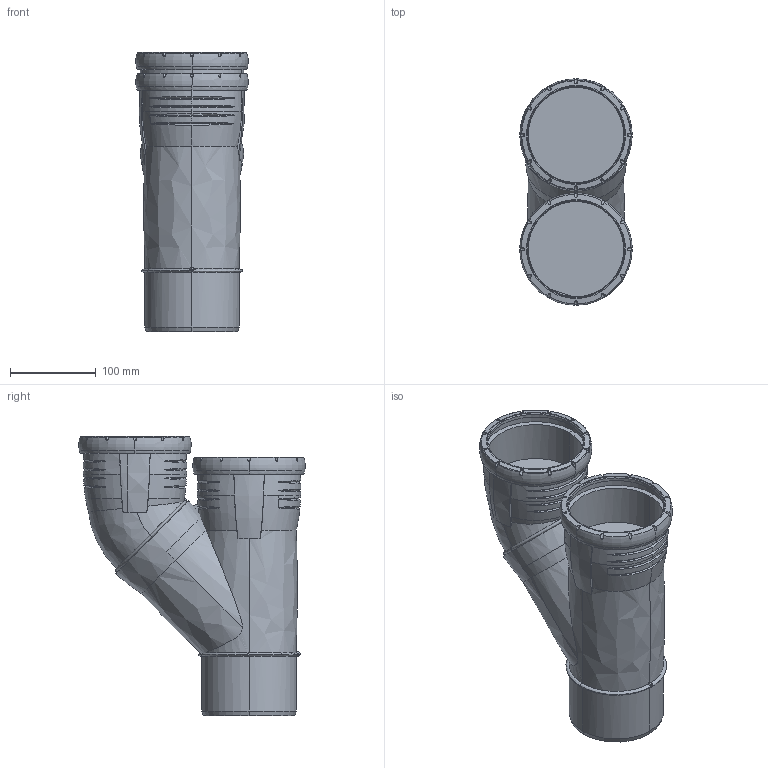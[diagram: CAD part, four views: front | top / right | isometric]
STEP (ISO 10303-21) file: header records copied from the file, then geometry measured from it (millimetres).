
FILE_DESCRIPTION(/* description */ (''),/* implementation_level */ '2;1');
FILE_NAME(/* name */ 'H:\Geberit-Teile\Export\Silent\stp\393557.stp',/* time_stamp */ '2017-03-30T11:39:38+02:00',/* author */ ('seihe2'),/* organization */ (''),/* preprocessor_version */ 'ST-DEVELOPER v15.2',/* originating_system */ 'Autodesk Inventor 2014',/* authorisation */ '');
FILE_SCHEMA (('AUTOMOTIVE_DESIGN { 1 0 10303 214 3 1 1 }'));
Products named in the file (1): 393557
Bounding box: 130.92 x 263.81 x 325.52 mm (x, y, z)
Volume: 3481228.7 mm3; surface area: 294669.8 mm2
Topology: 1 solids, 1 shells, 417 faces, 1087 edges, 650 vertices
Faces by surface type: bspline 223, cylinder 58, plane 47, torus 45, cone 44
Entity records: 32731 total; most frequent: CARTESIAN_POINT 23662, ORIENTED_EDGE 2118, DIRECTION 1453, EDGE_CURVE 1059, VERTEX_POINT 647, AXIS2_PLACEMENT_3D 625, CIRCLE 421, B_SPLINE_CURVE_WITH_KNOTS 419
